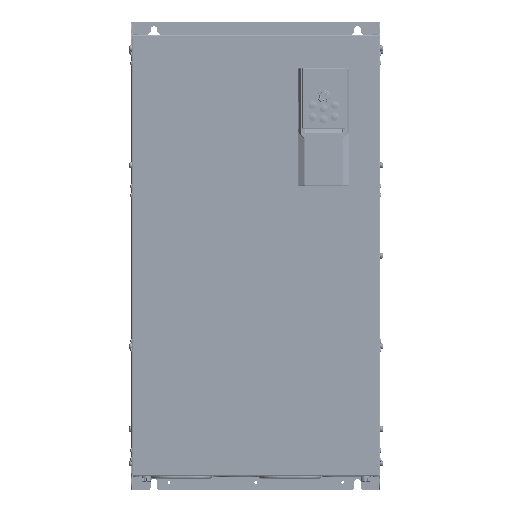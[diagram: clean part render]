
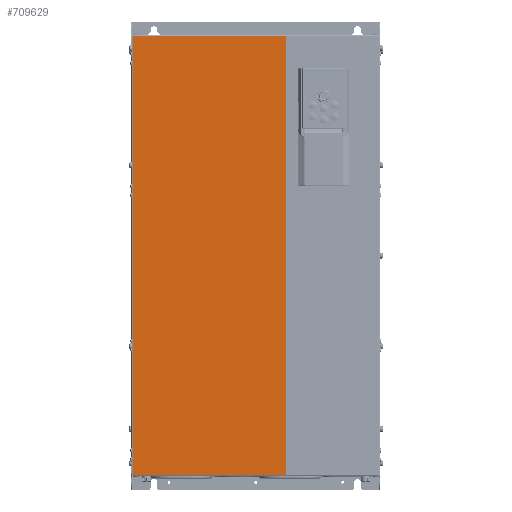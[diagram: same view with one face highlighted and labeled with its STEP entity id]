
A CAD part, top view. The second image highlights one B-rep face of the part: STEP entity #709629.
In plain terms, the highlighted planar face has unit normal (0, 0, 1).
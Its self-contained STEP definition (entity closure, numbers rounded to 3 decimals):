
#706701=DIRECTION('',(0.,1.,0.));
#706702=VECTOR('',#706701,581.);
#706703=CARTESIAN_POINT('',(-163.,-0.5,140.));
#706704=LINE('',#706703,#706702);
#707891=DIRECTION('',(0.,-1.,0.));
#707892=VECTOR('',#707891,581.);
#707893=CARTESIAN_POINT('',(40.,580.5,140.));
#707894=LINE('',#707893,#707892);
#707898=DIRECTION('',(-1.,0.,0.));
#707899=VECTOR('',#707898,203.);
#707900=CARTESIAN_POINT('',(40.,-0.5,140.));
#707901=LINE('',#707900,#707899);
#707905=DIRECTION('',(-1.,0.,0.));
#707906=VECTOR('',#707905,203.);
#707907=CARTESIAN_POINT('',(40.,580.5,140.));
#707908=LINE('',#707907,#707906);
#708028=CARTESIAN_POINT('',(40.,580.5,140.));
#708029=CARTESIAN_POINT('',(40.,-0.5,140.));
#708030=VERTEX_POINT('',#708028);
#708031=VERTEX_POINT('',#708029);
#708188=CARTESIAN_POINT('',(-163.,580.5,140.));
#708189=VERTEX_POINT('',#708188);
#708193=CARTESIAN_POINT('',(-163.,-0.5,140.));
#708195=VERTEX_POINT('',#708193);
#709618=CARTESIAN_POINT('',(-164.5,582.,140.));
#709619=DIRECTION('',(0.,0.,1.));
#709620=DIRECTION('',(0.,-1.,0.));
#709621=AXIS2_PLACEMENT_3D('',#709618,#709619,#709620);
#709622=PLANE('',#709621);
#709623=ORIENTED_EDGE('',*,*,#709610,.T.);
#709624=ORIENTED_EDGE('',*,*,#709541,.T.);
#709625=ORIENTED_EDGE('',*,*,#708592,.T.);
#709626=ORIENTED_EDGE('',*,*,#709593,.F.);
#709627=EDGE_LOOP('',(#709623,#709624,#709625,#709626));
#709628=FACE_OUTER_BOUND('',#709627,.F.);
#709629=ADVANCED_FACE('',(#709628),#709622,.T.);
#708592=EDGE_CURVE('',#708195,#708189,#706704,.T.);
#709541=EDGE_CURVE('',#708031,#708195,#707901,.T.);
#709593=EDGE_CURVE('',#708030,#708189,#707908,.T.);
#709610=EDGE_CURVE('',#708030,#708031,#707894,.T.);
